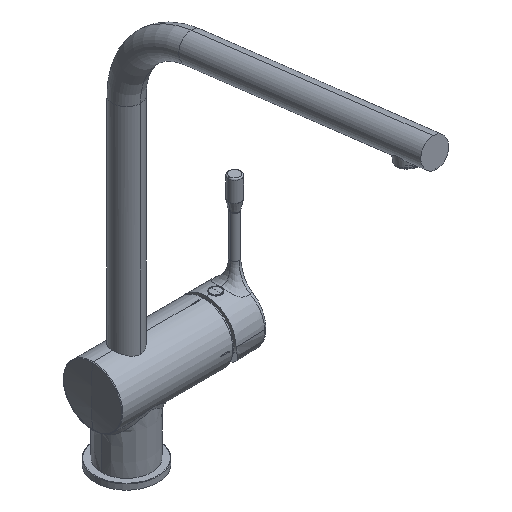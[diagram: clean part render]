
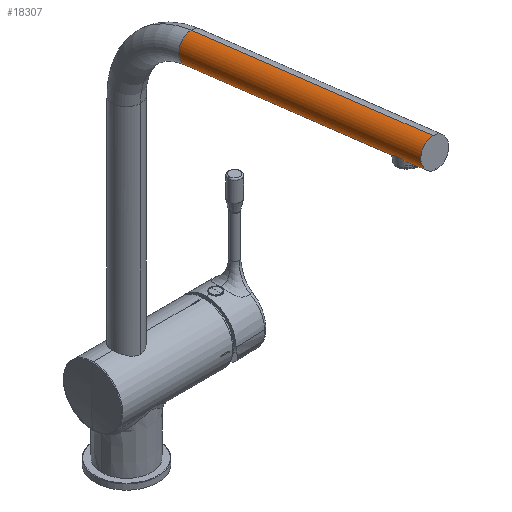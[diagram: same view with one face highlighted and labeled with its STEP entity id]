
A CAD part, isometric view. The second image highlights one B-rep face of the part: STEP entity #18307.
In plain terms, the highlighted cylindrical face has radius 11 mm (diameter 22 mm), a partial arc.
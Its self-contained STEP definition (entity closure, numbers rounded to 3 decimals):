
#5445=CARTESIAN_POINT('',(0.,-233.901,324.677));
#5446=CARTESIAN_POINT('',(-0.386,-233.901,
324.677));
#5447=CARTESIAN_POINT('',(-1.181,-233.851,
324.711));
#5448=CARTESIAN_POINT('',(-2.466,-233.578,
324.893));
#5449=CARTESIAN_POINT('',(-3.717,-233.106,
325.204));
#5450=CARTESIAN_POINT('',(-4.907,-232.44,
325.635));
#5451=CARTESIAN_POINT('',(-5.964,-231.63,
326.144));
#5452=CARTESIAN_POINT('',(-6.892,-230.698,
326.705));
#5453=CARTESIAN_POINT('',(-7.701,-229.643,
327.3));
#5454=CARTESIAN_POINT('',(-8.369,-228.498,
327.884));
#5455=CARTESIAN_POINT('',(-8.878,-227.304,
328.393));
#5456=CARTESIAN_POINT('',(-9.204,-226.202,
328.74));
#5457=CARTESIAN_POINT('',(-9.393,-225.203,
328.923));
#5458=CARTESIAN_POINT('',(-9.482,-224.253,
328.957));
#5459=CARTESIAN_POINT('',(-9.475,-223.291,
328.828));
#5460=CARTESIAN_POINT('',(-9.374,-222.39,
328.545));
#5461=CARTESIAN_POINT('',(-9.189,-221.546,
328.147));
#5462=CARTESIAN_POINT('',(-8.927,-220.749,
327.663));
#5463=CARTESIAN_POINT('',(-8.583,-219.977,
327.109));
#5464=CARTESIAN_POINT('',(-8.138,-219.211,
326.487));
#5465=CARTESIAN_POINT('',(-7.57,-218.442,
325.805));
#5466=CARTESIAN_POINT('',(-6.85,-217.676,
325.075));
#5467=CARTESIAN_POINT('',(-5.953,-216.935,
324.333));
#5468=CARTESIAN_POINT('',(-4.895,-216.273,
323.644));
#5469=CARTESIAN_POINT('',(-3.711,-215.735,
323.069));
#5470=CARTESIAN_POINT('',(-2.465,-215.354,
322.655));
#5471=CARTESIAN_POINT('',(-1.185,-215.134,
322.413));
#5472=CARTESIAN_POINT('',(-0.387,-215.093,
322.368));
#5473=CARTESIAN_POINT('',(0.,-215.093,322.368));
#5475=CARTESIAN_POINT('',(0.,-52.688,313.51));
#5476=DIRECTION('',(0.,-0.993,0.122));
#5477=DIRECTION('',(0.,0.122,0.993));
#5478=AXIS2_PLACEMENT_3D('',#5475,#5476,#5477);
#5480=CARTESIAN_POINT('',(0.,-244.993,337.122));
#5481=DIRECTION('',(0.,-0.993,0.122));
#5482=DIRECTION('',(0.,0.122,0.993));
#5483=AXIS2_PLACEMENT_3D('',#5480,#5481,#5482);
#5523=DIRECTION('',(0.,-0.993,0.122));
#5524=VECTOR('',#5523,12.525);
#5525=CARTESIAN_POINT('',(0.,-233.901,324.677));
#5526=LINE('',#5525,#5524);
#5532=DIRECTION('',(0.,0.993,-0.122));
#5533=VECTOR('',#5532,193.749);
#5534=CARTESIAN_POINT('',(0.,-243.652,348.04));
#5535=LINE('',#5534,#5533);
#5541=DIRECTION('',(0.,-0.993,0.122));
#5542=VECTOR('',#5541,162.274);
#5543=CARTESIAN_POINT('',(0.,-54.028,302.592));
#5544=LINE('',#5543,#5542);
#6092=CARTESIAN_POINT('',(0.,-51.347,324.428));
#6093=CARTESIAN_POINT('',(0.,-54.028,302.592));
#6094=VERTEX_POINT('',#6092);
#6095=VERTEX_POINT('',#6093);
#6096=CARTESIAN_POINT('',(0.,-243.652,348.04));
#6097=CARTESIAN_POINT('',(0.,-246.333,326.204));
#6098=VERTEX_POINT('',#6096);
#6099=VERTEX_POINT('',#6097);
#6188=VERTEX_POINT('',#5445);
#6189=VERTEX_POINT('',#5473);
#18289=CARTESIAN_POINT('',(0.,-52.688,313.51));
#18290=DIRECTION('',(0.,-0.993,0.122));
#18291=DIRECTION('',(0.,0.122,0.993));
#18292=AXIS2_PLACEMENT_3D('',#18289,#18290,#18291);
#18293=CYLINDRICAL_SURFACE('',#18292,11.);
#18295=ORIENTED_EDGE('',*,*,#18294,.T.);
#18297=ORIENTED_EDGE('',*,*,#18296,.F.);
#18298=ORIENTED_EDGE('',*,*,#18283,.F.);
#18300=ORIENTED_EDGE('',*,*,#18299,.F.);
#18302=ORIENTED_EDGE('',*,*,#18301,.T.);
#18304=ORIENTED_EDGE('',*,*,#18303,.F.);
#18305=EDGE_LOOP('',(#18295,#18297,#18298,#18300,#18302,#18304));
#18306=FACE_OUTER_BOUND('',#18305,.F.);
#18307=ADVANCED_FACE('',(#18306),#18293,.T.);
#5474=B_SPLINE_CURVE_WITH_KNOTS('',3,(#5445,#5446,#5447,#5448,#5449,#5450,#5451,
#5452,#5453,#5454,#5455,#5456,#5457,#5458,#5459,#5460,#5461,#5462,#5463,#5464,
#5465,#5466,#5467,#5468,#5469,#5470,#5471,#5472,#5473),.UNSPECIFIED.,.F.,.F.,(4,
1,1,1,1,1,1,1,1,1,1,1,1,1,1,1,1,1,1,1,1,1,1,1,1,1,4),(0.,0.038,
0.077,0.115,0.154,0.192,
0.231,0.269,0.308,0.346,
0.385,0.423,0.462,0.5,0.538,
0.577,0.615,0.654,0.692,
0.731,0.769,0.808,0.846,
0.885,0.923,0.962,1.),.UNSPECIFIED.);
#5479=CIRCLE('',#5478,11.);
#5484=CIRCLE('',#5483,11.);
#18283=EDGE_CURVE('',#6094,#6095,#5479,.T.);
#18294=EDGE_CURVE('',#6188,#6189,#5474,.T.);
#18296=EDGE_CURVE('',#6095,#6189,#5544,.T.);
#18299=EDGE_CURVE('',#6098,#6094,#5535,.T.);
#18301=EDGE_CURVE('',#6098,#6099,#5484,.T.);
#18303=EDGE_CURVE('',#6188,#6099,#5526,.T.);
